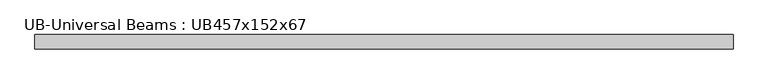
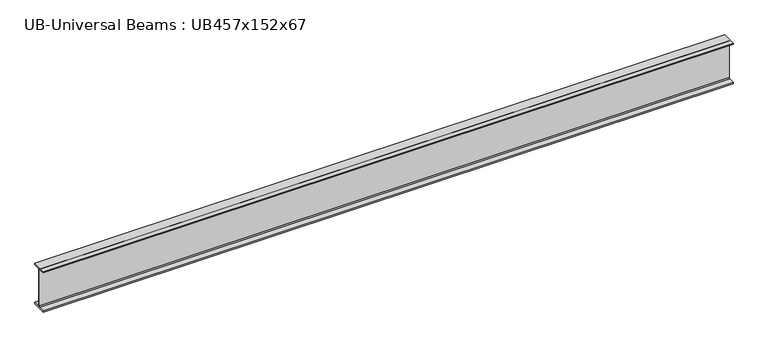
"""IFC4 building model written with IfcOpenShell, lengths in millimetres: beam geometry, UB-Universal Beams : UB457x152x67."""

from ifc_helpers import new_model, si_unit, point, frame, frame_2d, origin, place, context, project, spatial, polyline, circle_curve, trimmed, segment, composite_curve, outline, extrude, source, transform, mapped, element, save


def ub_universal_beams_ub457x152x67_0b84d38f(model_context):
    return source(origin(), model_context, "Body", "SweptSolid", [
        extrude(outline(composite_curve([segment(polyline([(76.9, -214.0), (76.9, -229.0), (-76.9, -229.0), (-76.9, -214.0), (-14.7, -214.0)]), True, "CONTINUOUS"), segment(trimmed(circle_curve(frame_2d((-14.7, -203.8)), 10.2), [point((-14.7, -214.0))], [point((-4.5, -203.8))], True, "CARTESIAN"), True, "CONTINUOUS"), segment(polyline([(-4.5, -203.8), (-4.5, 203.8)]), True, "CONTINUOUS"), segment(trimmed(circle_curve(frame_2d((-14.7, 203.8)), 10.2), [point((-4.5, 203.8))], [point((-14.7, 214.0))], True, "CARTESIAN"), True, "CONTINUOUS"), segment(polyline([(-14.7, 214.0), (-76.9, 214.0), (-76.9, 229.0), (76.9, 229.0), (76.9, 214.0), (14.7, 214.0)]), True, "CONTINUOUS"), segment(trimmed(circle_curve(frame_2d((14.7, 203.8)), 10.2), [point((14.7, 214.0))], [point((4.5, 203.8))], True, "CARTESIAN"), True, "CONTINUOUS"), segment(polyline([(4.5, 203.8), (4.5, -203.8)]), True, "CONTINUOUS"), segment(trimmed(circle_curve(frame_2d((14.7, -203.8)), 10.2), [point((4.5, -203.8))], [point((14.7, -214.0))], True, "CARTESIAN"), True, "CONTINUOUS"), segment(polyline([(14.7, -214.0), (76.9, -214.0)]), True, "CONTINUOUS")], self_intersect=False)), frame((-3724.8, 0.0, 0.0), z_axis=(1.0, 0.0, 0.0), x_axis=(0.0, 1.0, 0.0)), (0.0, 0.0, 1.0), 7395.9),
    ])


if __name__ == "__main__":
    model = new_model("IFC4")
    model_context = context("Model", 3, world=origin())
    ifc_project = project(units=[si_unit("LENGTHUNIT", "METRE", prefix="MILLI")], contexts=[model_context])
    site = spatial("IfcSite", under=ifc_project)
    building = spatial("IfcBuilding", under=site)
    placement = place(None, origin())
    ub_universal_beams_ub457x152x67_shape = ub_universal_beams_ub457x152x67_0b84d38f(model_context)
    element("IfcBeam", 1, ObjectType="UB-Universal Beams : UB457x152x67", at=placement, inside=building, context=model_context, shape_type="MappedRepresentation", body=[
        mapped(ub_universal_beams_ub457x152x67_shape, transform((0.0, 0.0, 0.0), x_axis=(1.0, 0.0, 0.0), y_axis=(0.0, 1.0, 0.0), z_axis=(0.0, 0.0, 1.0))),
    ])
    save(model, "model.ifc")
